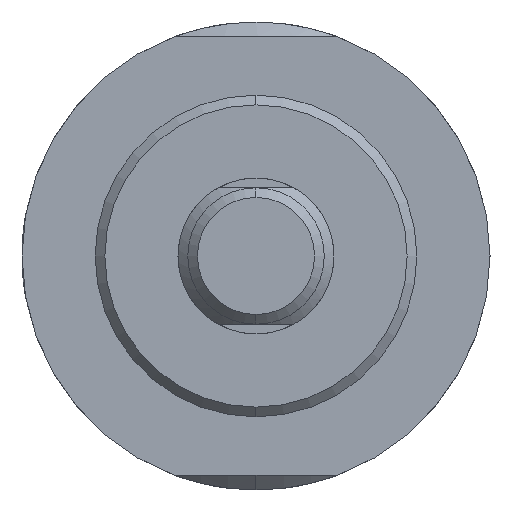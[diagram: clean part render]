
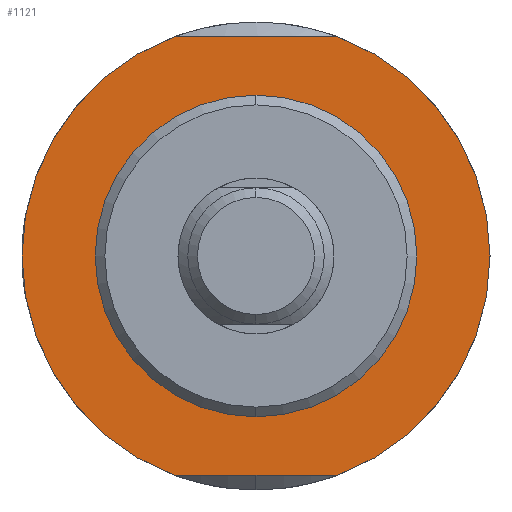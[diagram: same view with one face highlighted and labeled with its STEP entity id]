
A CAD part, left-side view. The second image highlights one B-rep face of the part: STEP entity #1121.
In plain terms, the highlighted planar face has unit normal (-1, 0, 0).
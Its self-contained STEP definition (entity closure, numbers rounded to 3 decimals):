
#38 = CARTESIAN_POINT ( 'NONE',  ( 50., 0., 16.5 ) ) ;
#52 = VERTEX_POINT ( 'NONE', #594 ) ;
#119 = DIRECTION ( 'NONE',  ( 0., 1., 0. ) ) ;
#131 = VERTEX_POINT ( 'NONE', #269 ) ;
#177 = VECTOR ( 'NONE', #1973, 1000. ) ;
#196 = EDGE_CURVE ( 'NONE', #996, #948, #1957, .T. ) ;
#204 = DIRECTION ( 'NONE',  ( -1., 0., 0. ) ) ;
#269 = CARTESIAN_POINT ( 'NONE',  ( 50., 0., -16.5 ) ) ;
#329 = AXIS2_PLACEMENT_3D ( 'NONE', #1063, #1551, #969 ) ;
#354 = DIRECTION ( 'NONE',  ( -1., 0., 0. ) ) ;
#409 = ORIENTED_EDGE ( 'NONE', *, *, #558, .F. ) ;
#545 = CIRCLE ( 'NONE', #988, 16.5 ) ;
#558 = EDGE_CURVE ( 'NONE', #756, #52, #1788, .T. ) ;
#594 = CARTESIAN_POINT ( 'NONE',  ( 50., -8.352, 22.5 ) ) ;
#604 = VECTOR ( 'NONE', #119, 1000. ) ;
#685 = DIRECTION ( 'NONE',  ( 0., 0., -1. ) ) ;
#756 = VERTEX_POINT ( 'NONE', #1400 ) ;
#836 = CARTESIAN_POINT ( 'NONE',  ( 50., 15., 22.5 ) ) ;
#851 = CIRCLE ( 'NONE', #1594, 24. ) ;
#889 = DIRECTION ( 'NONE',  ( 0., 0., 1. ) ) ;
#916 = EDGE_LOOP ( 'NONE', ( #924, #1041 ) ) ;
#922 = CARTESIAN_POINT ( 'NONE',  ( 50., 0., 0. ) ) ;
#924 = ORIENTED_EDGE ( 'NONE', *, *, #1235, .F. ) ;
#948 = VERTEX_POINT ( 'NONE', #1770 ) ;
#969 = DIRECTION ( 'NONE',  ( 0., 0., 1. ) ) ;
#988 = AXIS2_PLACEMENT_3D ( 'NONE', #922, #204, #1055 ) ;
#996 = VERTEX_POINT ( 'NONE', #1734 ) ;
#1015 = CARTESIAN_POINT ( 'NONE',  ( 50., 0., -24. ) ) ;
#1041 = ORIENTED_EDGE ( 'NONE', *, *, #1549, .F. ) ;
#1055 = DIRECTION ( 'NONE',  ( 0., 0., 1. ) ) ;
#1058 = CARTESIAN_POINT ( 'NONE',  ( 50., 0., 0. ) ) ;
#1063 = CARTESIAN_POINT ( 'NONE',  ( 50., 0., 0. ) ) ;
#1121 = ADVANCED_FACE ( 'NONE', ( #1433, #1438 ), #1412, .F. ) ;
#1195 = EDGE_CURVE ( 'NONE', #756, #948, #851, .T. ) ;
#1235 = EDGE_CURVE ( 'NONE', #1779, #131, #545, .T. ) ;
#1312 = ORIENTED_EDGE ( 'NONE', *, *, #196, .F. ) ;
#1332 = AXIS2_PLACEMENT_3D ( 'NONE', #1058, #1781, #889 ) ;
#1334 = CARTESIAN_POINT ( 'NONE',  ( 50., 15., -22.5 ) ) ;
#1375 = EDGE_LOOP ( 'NONE', ( #1894, #1312, #1769, #409 ) ) ;
#1400 = CARTESIAN_POINT ( 'NONE',  ( 50., 8.352, 22.5 ) ) ;
#1412 = PLANE ( 'NONE',  #1898 ) ;
#1433 = FACE_BOUND ( 'NONE', #916, .T. ) ;
#1438 = FACE_OUTER_BOUND ( 'NONE', #1375, .T. ) ;
#1530 = DIRECTION ( 'NONE',  ( 0., 0., 1. ) ) ;
#1549 = EDGE_CURVE ( 'NONE', #131, #1779, #1742, .T. ) ;
#1551 = DIRECTION ( 'NONE',  ( -1., 0., 0. ) ) ;
#1594 = AXIS2_PLACEMENT_3D ( 'NONE', #1615, #354, #1530 ) ;
#1615 = CARTESIAN_POINT ( 'NONE',  ( 50., 0., 0. ) ) ;
#1659 = DIRECTION ( 'NONE',  ( 1., 0., 0. ) ) ;
#1734 = CARTESIAN_POINT ( 'NONE',  ( 50., -8.352, -22.5 ) ) ;
#1742 = CIRCLE ( 'NONE', #329, 16.5 ) ;
#1769 = ORIENTED_EDGE ( 'NONE', *, *, #1860, .T. ) ;
#1770 = CARTESIAN_POINT ( 'NONE',  ( 50., 8.352, -22.5 ) ) ;
#1779 = VERTEX_POINT ( 'NONE', #38 ) ;
#1781 = DIRECTION ( 'NONE',  ( -1., 0., 0. ) ) ;
#1788 = LINE ( 'NONE', #836, #177 ) ;
#1860 = EDGE_CURVE ( 'NONE', #996, #52, #1984, .T. ) ;
#1894 = ORIENTED_EDGE ( 'NONE', *, *, #1195, .T. ) ;
#1898 = AXIS2_PLACEMENT_3D ( 'NONE', #1015, #1659, #685 ) ;
#1957 = LINE ( 'NONE', #1334, #604 ) ;
#1973 = DIRECTION ( 'NONE',  ( 0., -1., 0. ) ) ;
#1984 = CIRCLE ( 'NONE', #1332, 24. ) ;
